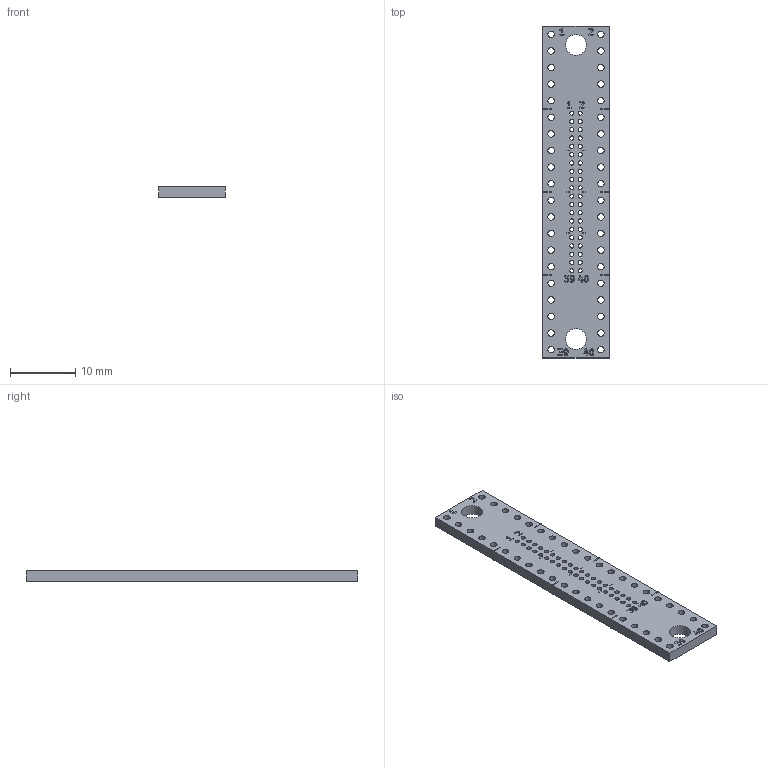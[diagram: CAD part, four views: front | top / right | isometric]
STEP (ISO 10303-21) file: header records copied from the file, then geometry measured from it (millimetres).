
FILE_DESCRIPTION(('FreeCAD Model'),'2;1');
FILE_NAME('C:/Users/Y2Kb/Documents/GitHub/PitchConvertPCB_1.27mm2x20P-2.54mm2x20P/PCB_source/KiCad/step/1_27_2x20P-2_54_2x20P_step.step','2021-09-19T12:12:39',(''),(''), 'Open CASCADE STEP processor 7.3','FreeCAD','Unknown');
FILE_SCHEMA(('AUTOMOTIVE_DESIGN { 1 0 10303 214 1 1 1 1 }'));
Length unit declared in the file: millimetre
Products named in the file (8): 1_27_2x20P-2_54_2x20P; Board_Geoms_9463; Local_CS_9463; Pcb_9463; PCB_Sketch_9463; botSilks_835d; topSilks_429b; Step_Models_9463
Assembly tree (7 placements, depth 3):
  1_27_2x20P-2_54_2x20P
    Board_Geoms_9463
      Local_CS_9463
      Pcb_9463
      PCB_Sketch_9463
      botSilks_835d
      topSilks_429b
    Step_Models_9463
Bounding box: 10.31 x 50.8 x 1.74 mm (x, y, z)
Volume: 728.6 mm3; surface area: 1481.2 mm2
Topology: 1 solids, 49 shells, 136 faces, 5204 edges, 5122 vertices
Faces by surface type: cylinder 82, plane 54
Full cylindrical faces by diameter (mm): 0.65 x40, 1 x40, 3.2 x2
Entity records: 44008 total; most frequent: CARTESIAN_POINT 10470, DIRECTION 5656, ORIENTED_EDGE 5458, EDGE_CURVE 5200, VERTEX_POINT 5114, LINE 5040, VECTOR 5040, AXIS2_PLACEMENT_3D 308
